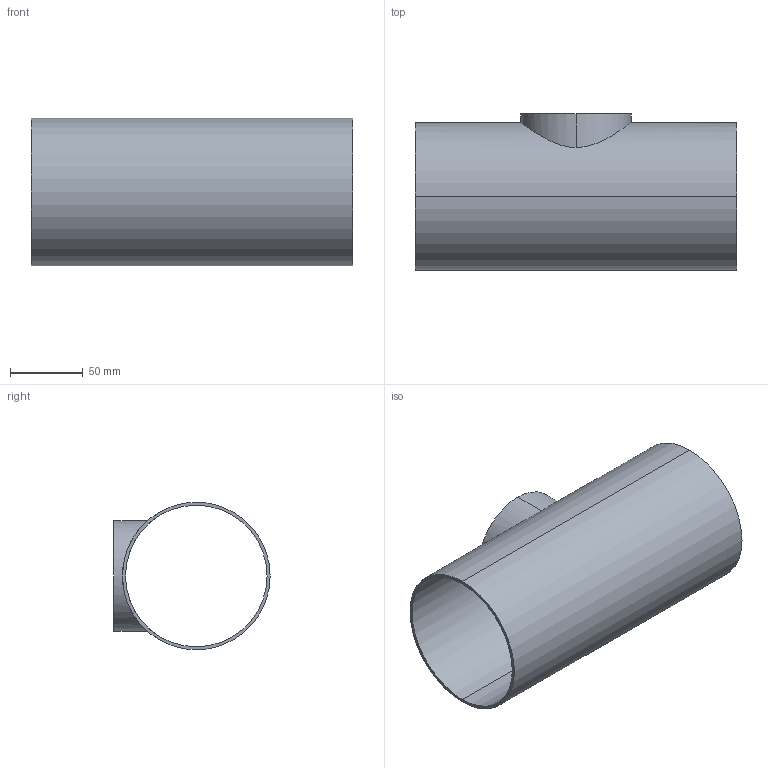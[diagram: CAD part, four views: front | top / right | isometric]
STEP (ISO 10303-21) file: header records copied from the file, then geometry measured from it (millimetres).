
FILE_DESCRIPTION (( 'STEP AP214' ), '1' );
FILE_NAME ('TEG7RS6L4.0x3.0-...STEP', '2016-05-24T11:08:02', ( 'eran' ), ( '' ), 'SwSTEP 2.0', 'SolidWorks 2016', '' );
FILE_SCHEMA (( 'AUTOMOTIVE_DESIGN' ));
Length unit declared in the file: millimetre
Products named in the file (1): TEG7RS6L4.0x3.0-..
Bounding box: 221.4 x 107.5 x 101.6 mm (x, y, z)
Volume: 141721.8 mm3; surface area: 137553.4 mm2
Topology: 1 solids, 1 shells, 11 faces, 24 edges, 16 vertices
Faces by surface type: cylinder 8, plane 3
Entity records: 628 total; most frequent: CARTESIAN_POINT 336, DIRECTION 56, ORIENTED_EDGE 48, EDGE_CURVE 24, AXIS2_PLACEMENT_3D 24, VERTEX_POINT 16, EDGE_LOOP 16, CIRCLE 12
